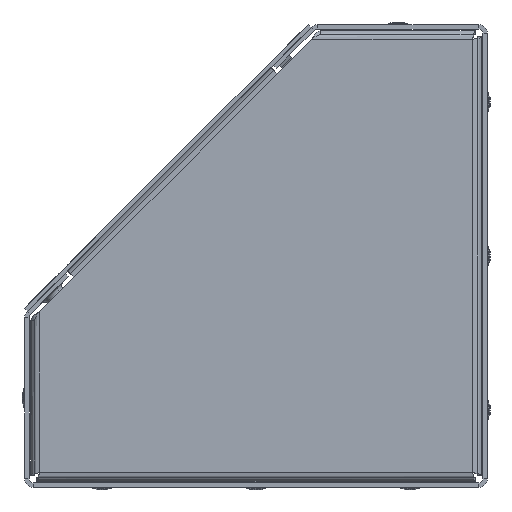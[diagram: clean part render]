
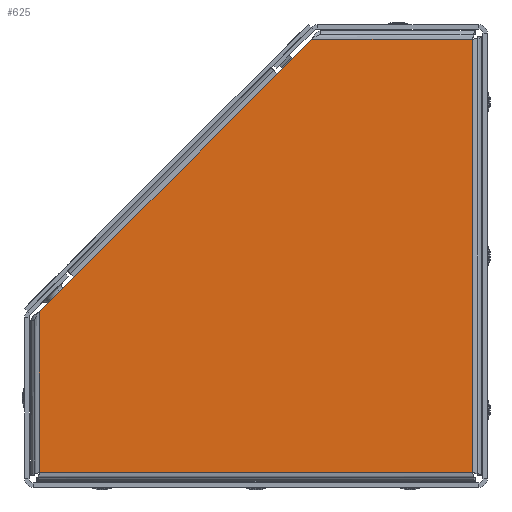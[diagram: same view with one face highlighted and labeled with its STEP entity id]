
A CAD part, left-side view. The second image highlights one B-rep face of the part: STEP entity #625.
In plain terms, the highlighted planar face has unit normal (-1, 0, 0) as drawn and (1, 0, 0) by its records, which use the part's own axes.
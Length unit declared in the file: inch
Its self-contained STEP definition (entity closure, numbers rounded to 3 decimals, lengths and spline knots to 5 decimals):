
#3 = EDGE_CURVE ( 'NONE', #15230, #5664, #7257, .T. ) ;
#585 = EDGE_CURVE ( 'NONE', #17200, #15162, #3103, .T. ) ;
#625 = ADVANCED_FACE ( 'NONE', ( #16856 ), #10765, .T. ) ;
#649 = CARTESIAN_POINT ( 'NONE',  ( 0., 2.53526, -0.44725 ) ) ;
#1623 = VERTEX_POINT ( 'NONE', #15147 ) ;
#1781 = LINE ( 'NONE', #5273, #8665 ) ;
#2000 = ORIENTED_EDGE ( 'NONE', *, *, #2872, .T. ) ;
#2173 = CARTESIAN_POINT ( 'NONE',  ( 0., 0., -5.62 ) ) ;
#2711 = ORIENTED_EDGE ( 'NONE', *, *, #14619, .T. ) ;
#2872 = EDGE_CURVE ( 'NONE', #7679, #7862, #14449, .T. ) ;
#2887 = ORIENTED_EDGE ( 'NONE', *, *, #15600, .T. ) ;
#3103 = LINE ( 'NONE', #10703, #13627 ) ;
#3166 = EDGE_CURVE ( 'NONE', #7862, #17200, #13342, .T. ) ;
#3471 = VECTOR ( 'NONE', #8570, 39.37008 ) ;
#3601 = VECTOR ( 'NONE', #12101, 39.37008 ) ;
#3872 = CARTESIAN_POINT ( 'NONE',  ( 0., 0., 0. ) ) ;
#4129 = EDGE_CURVE ( 'NONE', #1623, #15230, #1781, .T. ) ;
#4911 = CARTESIAN_POINT ( 'NONE',  ( 0., 0., 0. ) ) ;
#5273 = CARTESIAN_POINT ( 'NONE',  ( 0., 2.08801, 0. ) ) ;
#5664 = VERTEX_POINT ( 'NONE', #2173 ) ;
#6034 = VECTOR ( 'NONE', #8485, 39.37008 ) ;
#6184 = LINE ( 'NONE', #6483, #16731 ) ;
#6483 = CARTESIAN_POINT ( 'NONE',  ( 0., 0., -5.62 ) ) ;
#6630 = CARTESIAN_POINT ( 'NONE',  ( 0., 0., 0. ) ) ;
#6689 = DIRECTION ( 'NONE',  ( 0., 0., -1. ) ) ;
#7114 = DIRECTION ( 'NONE',  ( 0., -0.707, 0.707 ) ) ;
#7257 = LINE ( 'NONE', #3872, #3601 ) ;
#7679 = VERTEX_POINT ( 'NONE', #12412 ) ;
#7862 = VERTEX_POINT ( 'NONE', #14227 ) ;
#7945 = AXIS2_PLACEMENT_3D ( 'NONE', #6630, #14930, #6689 ) ;
#8485 = DIRECTION ( 'NONE',  ( 0., -0.707, 0.707 ) ) ;
#8570 = DIRECTION ( 'NONE',  ( 0., 0., 1. ) ) ;
#8665 = VECTOR ( 'NONE', #12176, 39.37008 ) ;
#10703 = CARTESIAN_POINT ( 'NONE',  ( 0., 5.17275, -3.08474 ) ) ;
#10765 = PLANE ( 'NONE',  #7945 ) ;
#11241 = CARTESIAN_POINT ( 'NONE',  ( 0., 5.62, -3.53199 ) ) ;
#12053 = ORIENTED_EDGE ( 'NONE', *, *, #3166, .T. ) ;
#12101 = DIRECTION ( 'NONE',  ( 0., 0., -1. ) ) ;
#12176 = DIRECTION ( 'NONE',  ( 0., -1., 0. ) ) ;
#12235 = ORIENTED_EDGE ( 'NONE', *, *, #3, .T. ) ;
#12412 = CARTESIAN_POINT ( 'NONE',  ( 0., 5.62, -5.62 ) ) ;
#12595 = VECTOR ( 'NONE', #7114, 39.37008 ) ;
#12803 = ORIENTED_EDGE ( 'NONE', *, *, #4129, .T. ) ;
#13342 = LINE ( 'NONE', #11241, #6034 ) ;
#13627 = VECTOR ( 'NONE', #16184, 39.37008 ) ;
#14037 = CARTESIAN_POINT ( 'NONE',  ( 0., 5.62, -5.62 ) ) ;
#14158 = EDGE_LOOP ( 'NONE', ( #12803, #12235, #2711, #2000, #12053, #14685, #2887 ) ) ;
#14227 = CARTESIAN_POINT ( 'NONE',  ( 0., 5.62, -3.53199 ) ) ;
#14449 = LINE ( 'NONE', #14037, #3471 ) ;
#14619 = EDGE_CURVE ( 'NONE', #5664, #7679, #6184, .T. ) ;
#14685 = ORIENTED_EDGE ( 'NONE', *, *, #585, .T. ) ;
#14930 = DIRECTION ( 'NONE',  ( 1., 0., 0. ) ) ;
#15147 = CARTESIAN_POINT ( 'NONE',  ( 0., 2.08801, 0. ) ) ;
#15162 = VERTEX_POINT ( 'NONE', #649 ) ;
#15230 = VERTEX_POINT ( 'NONE', #4911 ) ;
#15358 = CARTESIAN_POINT ( 'NONE',  ( 0., 5.62, -3.53199 ) ) ;
#15600 = EDGE_CURVE ( 'NONE', #15162, #1623, #16265, .T. ) ;
#16093 = DIRECTION ( 'NONE',  ( 0., 1., 0. ) ) ;
#16184 = DIRECTION ( 'NONE',  ( 0., -0.707, 0.707 ) ) ;
#16265 = LINE ( 'NONE', #15358, #12595 ) ;
#16731 = VECTOR ( 'NONE', #16093, 39.37008 ) ;
#16856 = FACE_OUTER_BOUND ( 'NONE', #14158, .T. ) ;
#17200 = VERTEX_POINT ( 'NONE', #17556 ) ;
#17556 = CARTESIAN_POINT ( 'NONE',  ( 0., 5.17275, -3.08474 ) ) ;
